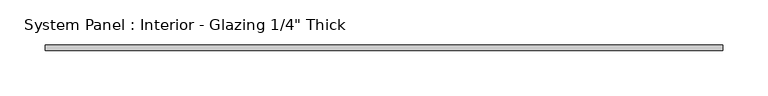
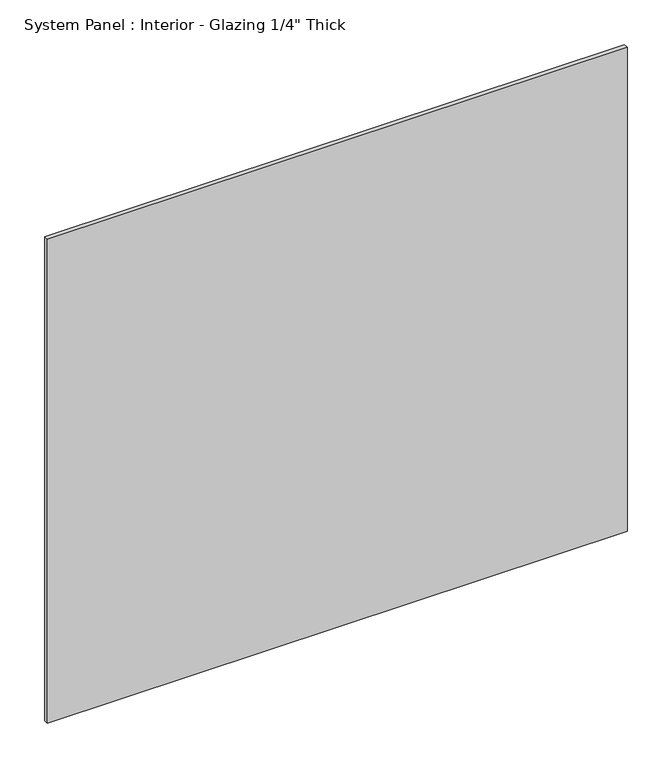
"""IFC4 building model written with IfcOpenShell, lengths in millimetres: plate geometry."""

from ifc_helpers import new_model, si_unit, origin, origin_with_axes, place, context, project, spatial, polyline, outline, extrude, source, transform, mapped, element, save


def plate_41dfdbf4(model_context):
    return source(origin(), model_context, "Body", "SweptSolid", [
        extrude(outline(polyline([(374.65, -3.175), (-374.65, -3.175), (-374.65, 3.175), (374.65, 3.175), (374.65, -3.175)])), origin_with_axes(), (0.0, 0.0, 1.0), 661.4292721),
    ])


if __name__ == "__main__":
    model = new_model("IFC4")
    model_context = context("Model", 3, world=origin())
    ifc_project = project(units=[si_unit("LENGTHUNIT", "METRE", prefix="MILLI")], contexts=[model_context])
    site = spatial("IfcSite", under=ifc_project)
    building = spatial("IfcBuilding", under=site)
    placement = place(None, origin())
    plate_shape = plate_41dfdbf4(model_context)
    element("IfcPlate", 1, ObjectType="System Panel : Interior - Glazing 1/4\" Thick", at=placement, inside=building, context=model_context, shape_type="MappedRepresentation", body=[
        mapped(plate_shape, transform((0.0, 0.0, 0.0), x_axis=(1.0, 0.0, 0.0), y_axis=(0.0, 1.0, 0.0), z_axis=(0.0, 0.0, 1.0))),
    ])
    save(model, "model.ifc")
